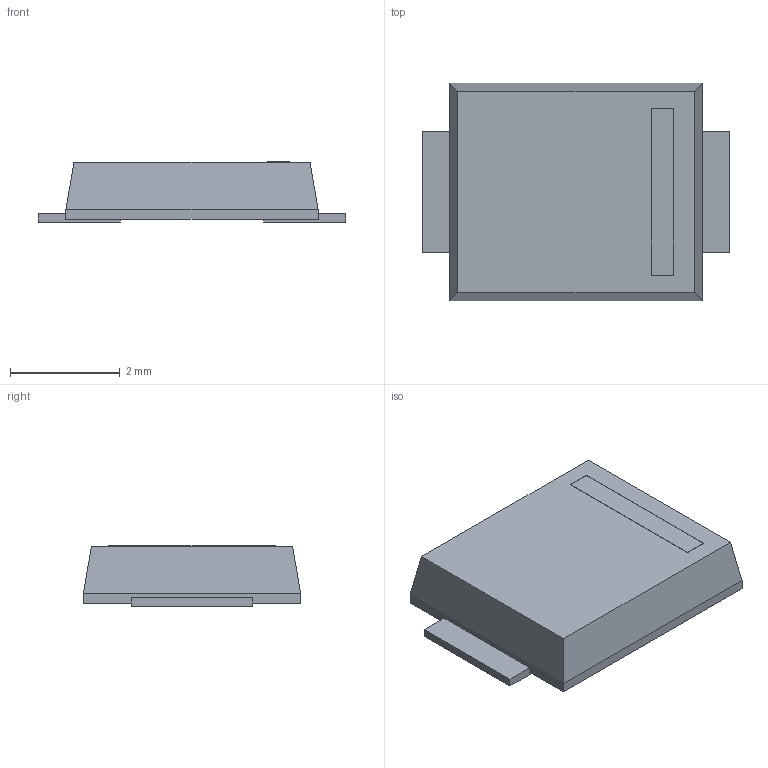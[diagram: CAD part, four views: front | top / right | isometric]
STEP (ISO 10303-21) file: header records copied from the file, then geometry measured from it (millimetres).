
FILE_DESCRIPTION(('STEP AP214'),'1');
FILE_NAME('CR_150UF_STM','2025-05-04T03:13:04',(''),(''),'','','');
FILE_SCHEMA(('AUTOMOTIVE_DESIGN'));
Length unit declared in the file: millimetre
Products named in the file (1): product
Bounding box: 5.61 x 3.96 x 1.1 mm (x, y, z)
Volume: 18.5 mm3; surface area: 69.2 mm2
Topology: 4 solids, 4 shells, 32 faces, 68 edges, 44 vertices
Faces by surface type: plane 32
Entity records: 966 total; most frequent: ORIENTED_EDGE 136, DIRECTION 134, CARTESIAN_POINT 77, EDGE_CURVE 68, LINE 68, VECTOR 68, VERTEX_POINT 44, AXIS2_PLACEMENT_3D 33
